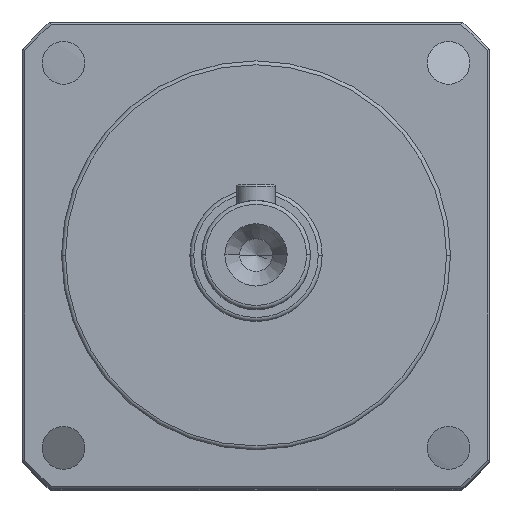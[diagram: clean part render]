
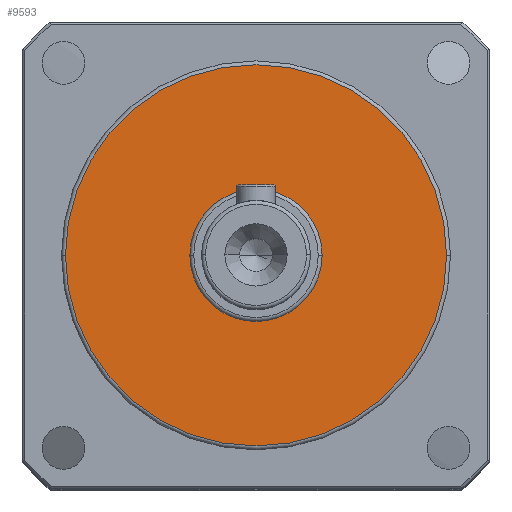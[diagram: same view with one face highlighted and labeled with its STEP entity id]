
A CAD part, top view. The second image highlights one B-rep face of the part: STEP entity #9593.
In plain terms, the highlighted planar face has unit normal (0, 0, 1).
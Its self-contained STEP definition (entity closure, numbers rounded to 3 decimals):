
#86 = DIRECTION ( 'NONE',  ( 0., 0., 1. ) ) ;
#240 = DIRECTION ( 'NONE',  ( 1., 0., 0. ) ) ;
#301 = DIRECTION ( 'NONE',  ( 0., 0., 1. ) ) ;
#787 = FACE_BOUND ( 'NONE', #8523, .T. ) ;
#868 = CARTESIAN_POINT ( 'NONE',  ( 4.176, 1.161, 158.5 ) ) ;
#1796 = DIRECTION ( 'NONE',  ( 1., 0., 0. ) ) ;
#2221 = DIRECTION ( 'NONE',  ( 0., 0., 1. ) ) ;
#2579 = AXIS2_PLACEMENT_3D ( 'NONE', #5970, #301, #9228 ) ;
#2598 = EDGE_CURVE ( 'NONE', #5278, #6233, #7990, .T. ) ;
#2865 = ORIENTED_EDGE ( 'NONE', *, *, #2598, .T. ) ;
#3137 = AXIS2_PLACEMENT_3D ( 'NONE', #8366, #7562, #240 ) ;
#3165 = AXIS2_PLACEMENT_3D ( 'NONE', #7799, #7142, #6346 ) ;
#3531 = ORIENTED_EDGE ( 'NONE', *, *, #5474, .F. ) ;
#3803 = EDGE_CURVE ( 'NONE', #6233, #5278, #6376, .T. ) ;
#3860 = DIRECTION ( 'NONE',  ( 1., 0., 0. ) ) ;
#4236 = AXIS2_PLACEMENT_3D ( 'NONE', #7906, #2221, #3860 ) ;
#4878 = VERTEX_POINT ( 'NONE', #868 ) ;
#4926 = CARTESIAN_POINT ( 'NONE',  ( -4.324, 1.161, 158.5 ) ) ;
#4969 = CARTESIAN_POINT ( 'NONE',  ( -12.824, 1.161, 158.5 ) ) ;
#5030 = PLANE ( 'NONE',  #9885 ) ;
#5278 = VERTEX_POINT ( 'NONE', #8999 ) ;
#5474 = EDGE_CURVE ( 'NONE', #10409, #4878, #8957, .T. ) ;
#5970 = CARTESIAN_POINT ( 'NONE',  ( -4.324, 1.161, 158.5 ) ) ;
#6233 = VERTEX_POINT ( 'NONE', #9009 ) ;
#6346 = DIRECTION ( 'NONE',  ( 1., 0., 0. ) ) ;
#6376 = CIRCLE ( 'NONE', #3137, 24.5 ) ;
#7142 = DIRECTION ( 'NONE',  ( 0., 0., 1. ) ) ;
#7562 = DIRECTION ( 'NONE',  ( 0., 0., 1. ) ) ;
#7799 = CARTESIAN_POINT ( 'NONE',  ( -4.324, 1.161, 158.5 ) ) ;
#7906 = CARTESIAN_POINT ( 'NONE',  ( -4.324, 1.161, 158.5 ) ) ;
#7990 = CIRCLE ( 'NONE', #4236, 24.5 ) ;
#8366 = CARTESIAN_POINT ( 'NONE',  ( -4.324, 1.161, 158.5 ) ) ;
#8523 = EDGE_LOOP ( 'NONE', ( #9813, #3531 ) ) ;
#8798 = CIRCLE ( 'NONE', #3165, 8.5 ) ;
#8957 = CIRCLE ( 'NONE', #2579, 8.5 ) ;
#8999 = CARTESIAN_POINT ( 'NONE',  ( -28.824, 1.161, 158.5 ) ) ;
#9009 = CARTESIAN_POINT ( 'NONE',  ( 20.176, 1.161, 158.5 ) ) ;
#9228 = DIRECTION ( 'NONE',  ( 1., 0., 0. ) ) ;
#9593 = ADVANCED_FACE ( 'NONE', ( #787, #9928 ), #5030, .T. ) ;
#9813 = ORIENTED_EDGE ( 'NONE', *, *, #10537, .F. ) ;
#9885 = AXIS2_PLACEMENT_3D ( 'NONE', #4926, #86, #1796 ) ;
#9928 = FACE_OUTER_BOUND ( 'NONE', #10540, .T. ) ;
#10342 = ORIENTED_EDGE ( 'NONE', *, *, #3803, .T. ) ;
#10409 = VERTEX_POINT ( 'NONE', #4969 ) ;
#10537 = EDGE_CURVE ( 'NONE', #4878, #10409, #8798, .T. ) ;
#10540 = EDGE_LOOP ( 'NONE', ( #10342, #2865 ) ) ;
